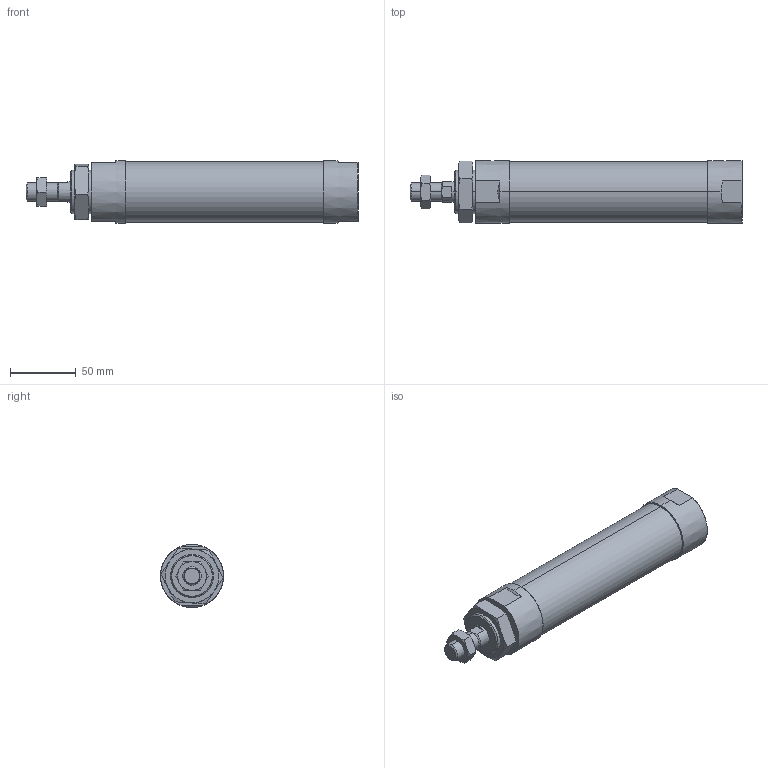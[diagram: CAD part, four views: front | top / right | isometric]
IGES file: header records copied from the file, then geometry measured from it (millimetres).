
Start section: SolidWorks IGES file using analytic representation for surfaces
Global section: file name: C:\Users\Toshiba\Desktop\JGND2-40-100-N.IGS; native system: SolidWorks 2014; preprocessor: SolidWorks 2014; author: Toshiba; date: 160804.111038; units: millimetre
Bounding box: 253 x 48 x 48 mm (x, y, z)
Surface area: 43290.8 mm2 (no closed solid volume)
Topology: 0 solids, 0 shells, 89 faces, 1702 edges, 1698 vertices
Faces by surface type: bspline 56, revolution 33
